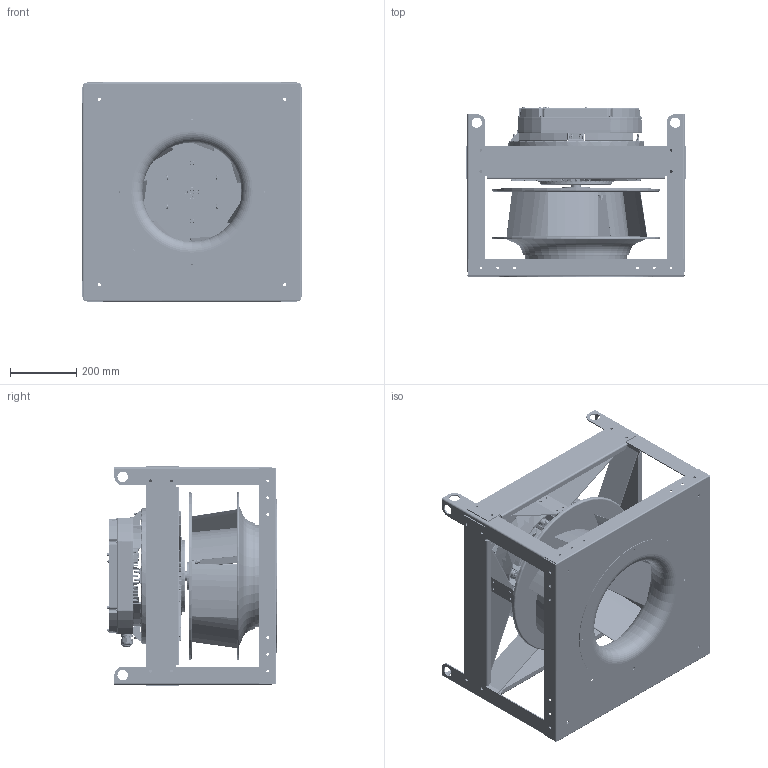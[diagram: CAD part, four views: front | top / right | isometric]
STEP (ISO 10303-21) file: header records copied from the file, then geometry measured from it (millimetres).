
FILE_DESCRIPTION (( 'STEP AP214' ), '1' );
FILE_NAME ('655779.STEP', '2026-04-07T20:37:07', ( '' ), ( '' ), 'SwSTEP 2.0', 'SolidWorks 2023', '' );
FILE_SCHEMA (( 'AUTOMOTIVE_DESIGN' ));
Length unit declared in the file: inch
Products named in the file (8): 768048CS_748048CS; 655779; 651567_651567; SXPI STRAP_651579; 651593_651593; 768036CS_768036CS; 651602_651602; 925517CS_925517CS
Assembly tree (16 placements, depth 2):
  655779
    651567_651567
    651602_651602  x4
    651593_651593  x4
    925517CS_925517CS
    768036CS_768036CS
    768048CS_748048CS
    SXPI STRAP_651579  x4
Bounding box: 663.7 x 513.43 x 663.7 mm (x, y, z)
Volume: 5816006.8 mm3; surface area: 5373851.1 mm2
Topology: 50 solids, 272 shells, 4781 faces, 14861 edges, 10088 vertices
Faces by surface type: cylinder 1400, plane 1328, bspline 1133, cone 508, torus 407, sphere 5
Full cylindrical faces by diameter (mm): 2.9 x2, 3.962 x4, 5.105 x16, 6 x144, 7 x5, 7.137 x16, 7.544 x1, 7.937 x3, 7.938 x1, 8.5 x1, 8.738 x87, 9 x5, 9.73 x8, 10.1 x1, 10.2 x1, 11.8 x7, 12.5 x1, 12.6 x1, 13 x7, 14 x1, 17.462 x4, 23.5 x1, 25.4 x1, 25.5 x2, 26.2 x1, 26.35 x1, 26.416 x2, 26.5 x1, 28.575 x1, 29.75 x1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
Entity records: 332513 total; most frequent: CARTESIAN_POINT 225290, ORIENTED_EDGE 21951, DIRECTION 19230, EDGE_CURVE 13389, VERTEX_POINT 9303, AXIS2_PLACEMENT_3D 7654, EDGE_LOOP 5225, FACE_OUTER_BOUND 4543
